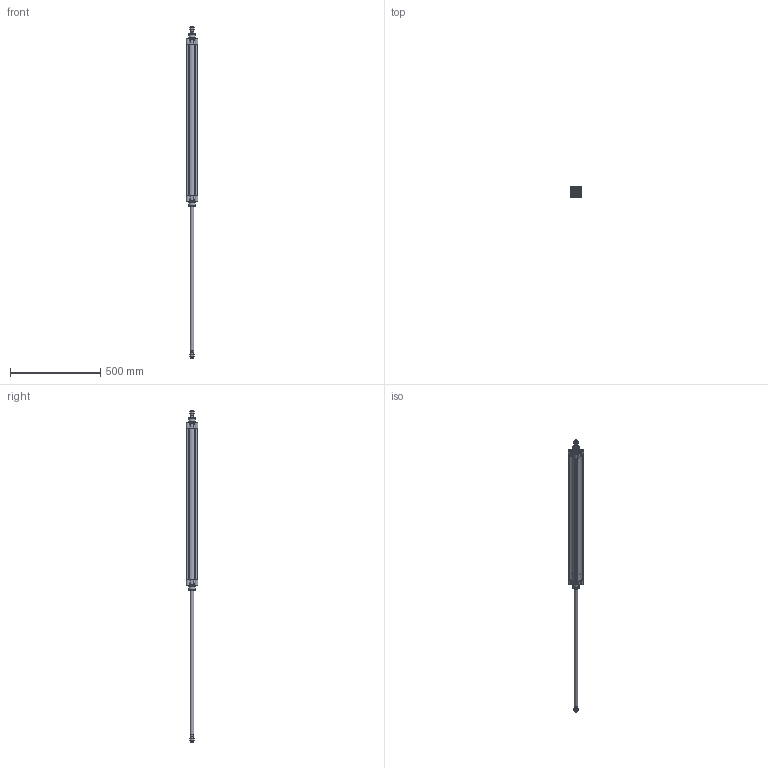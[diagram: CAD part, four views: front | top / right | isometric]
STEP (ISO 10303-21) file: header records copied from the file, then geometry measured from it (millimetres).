
FILE_DESCRIPTION(/* description */ ('Unknown'),/* implementation_level */ '2;1');
FILE_NAME(/* name */ 'HBF 50_800',/* time_stamp */ '2024-08-07T07:39:10+02:00',/* author */ ('Unknown'),/* organization */ ('Unknown'),/* preprocessor_version */ 'ST-DEVELOPER v16.7',/* originating_system */ 'Solid Edge',/* authorisation */ 'Unknown');
FILE_SCHEMA (('AUTOMOTIVE_DESIGN {1 0 10303 214 3 1 1}'));
Length unit declared in the file: millimetre
Products named in the file (6): HBF 50_800; Kit; Profilrohr 50_800; Kolbenstange_1_50_800; Mutter; Kolbenstange_2_50_800
Assembly tree (7 placements, depth 2):
  HBF 50_800
    Kit  x2
    Profilrohr 50_800
    Kolbenstange_1_50_800
    Mutter  x2
    Kolbenstange_2_50_800
Bounding box: 64.99 x 64.97 x 1844 mm (x, y, z)
Volume: 1490500.5 mm3; surface area: 715337.2 mm2
Topology: 7 solids, 21 shells, 1154 faces, 2869 edges, 1817 vertices
Faces by surface type: plane 410, cylinder 389, cone 137, torus 112, bspline 60, sphere 46
Full cylindrical faces by diameter (mm): 1.479 x2, 2.8 x2, 6.647 x16, 8 x8, 8.3 x8, 9 x2, 10 x2, 11.44 x2, 11.445 x2, 13 x8, 13.3 x8, 13.5 x2, 14.376 x2, 16 x2, 19.5 x2, 20 x4, 20.5 x2, 20.8 x2, 20.847 x2, 24 x2, 30 x4, 38 x2, 40 x2, 50 x3
Entity records: 25626 total; most frequent: CARTESIAN_POINT 5941, ORIENTED_EDGE 3338, DIRECTION 3277, EDGE_CURVE 1669, AXIS2_PLACEMENT_3D 1289, VERTEX_POINT 1096, FACE_BOUND 791, EDGE_LOOP 787
